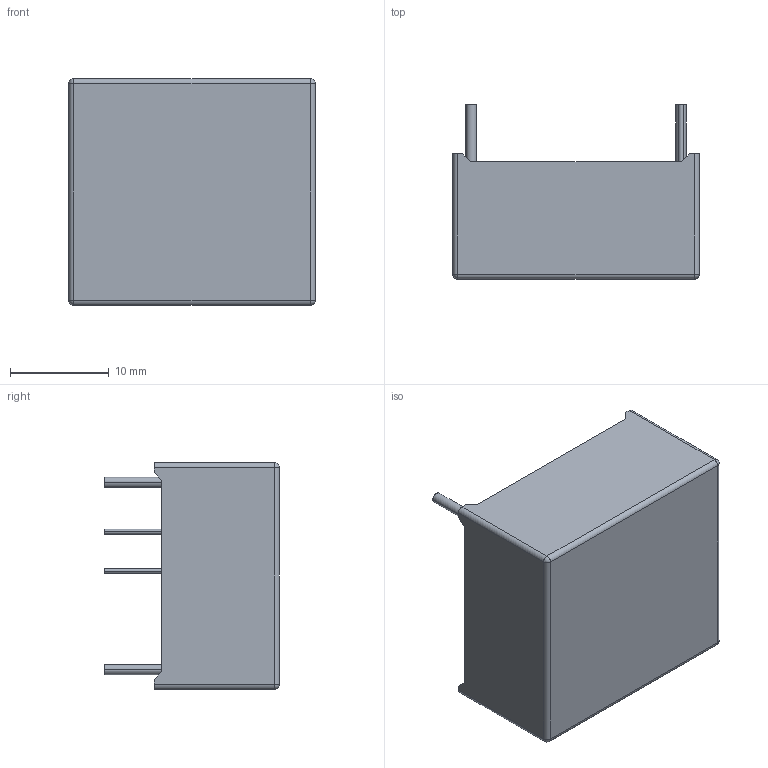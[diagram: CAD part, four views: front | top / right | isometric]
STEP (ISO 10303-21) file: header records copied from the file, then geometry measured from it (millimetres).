
FILE_DESCRIPTION((''),'2;1');
FILE_NAME('TFMOV20S511L-IT-5-001','2020-08-11T',('SET-01114'),(''),'PRO/ENGINEER BY PARAMETRIC TECHNOLOGY CORPORATION, 2012310','PRO/ENGINEER BY PARAMETRIC TECHNOLOGY CORPORATION, 2012310','');
FILE_SCHEMA(('CONFIG_CONTROL_DESIGN','SHAPE_APPEARANCE_LAYERS_GROUPS'));
Length unit declared in the file: millimetre
Products named in the file (1): TFMOV20S511L-IT-5-001
Bounding box: 25 x 17.7 x 23 mm (x, y, z)
Volume: 2087.7 mm3; surface area: 4170.4 mm2
Topology: 1 solids, 2 shells, 108 faces, 280 edges, 172 vertices
Faces by surface type: plane 60, cylinder 32, sphere 16
Entity records: 4079 total; most frequent: CARTESIAN_POINT 603, DIRECTION 560, ORIENTED_EDGE 528, PRESENTATION_STYLE_ASSIGNMENT 265, STYLED_ITEM 265, CURVE_STYLE 264, EDGE_CURVE 264, AXIS2_PLACEMENT_3D 192
